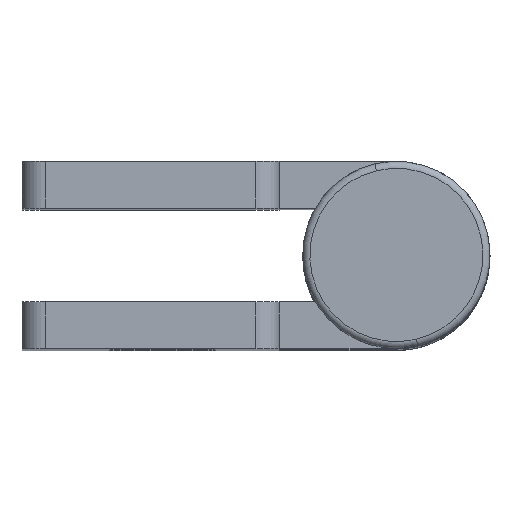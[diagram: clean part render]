
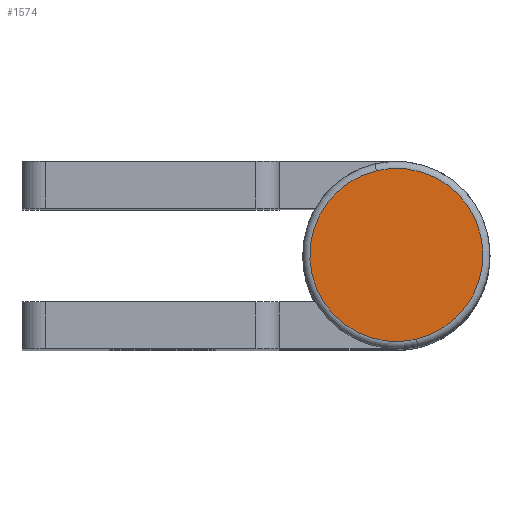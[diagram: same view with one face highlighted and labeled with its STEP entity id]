
A CAD part, top view. The second image highlights one B-rep face of the part: STEP entity #1574.
In plain terms, the highlighted planar face has unit normal (0, 0, 1) as drawn and (0, 0, -1) by its records, which use the part's own axes.
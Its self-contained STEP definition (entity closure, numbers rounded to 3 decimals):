
#32 = VERTEX_POINT ( 'NONE', #2256 ) ;
#90 = CARTESIAN_POINT ( 'NONE',  ( 0., 0., -1. ) ) ;
#177 = ORIENTED_EDGE ( 'NONE', *, *, #1757, .T. ) ;
#308 = DIRECTION ( 'NONE',  ( 1., 0., 0. ) ) ;
#429 = ORIENTED_EDGE ( 'NONE', *, *, #661, .T. ) ;
#540 = CIRCLE ( 'NONE', #1895, 3.7 ) ;
#661 = EDGE_CURVE ( 'NONE', #2833, #32, #1019, .T. ) ;
#689 = AXIS2_PLACEMENT_3D ( 'NONE', #90, #1703, #308 ) ;
#983 = DIRECTION ( 'NONE',  ( 0., 0., 1. ) ) ;
#1019 = CIRCLE ( 'NONE', #689, 3.7 ) ;
#1036 = CARTESIAN_POINT ( 'NONE',  ( 0., 0., -1. ) ) ;
#1066 = FACE_OUTER_BOUND ( 'NONE', #1491, .T. ) ;
#1199 = CARTESIAN_POINT ( 'NONE',  ( -3.7, 0., -1. ) ) ;
#1217 = PLANE ( 'NONE',  #1598 ) ;
#1285 = DIRECTION ( 'NONE',  ( 1., 0., 0. ) ) ;
#1491 = EDGE_LOOP ( 'NONE', ( #177, #429 ) ) ;
#1574 = ADVANCED_FACE ( 'NONE', ( #1066 ), #1217, .F. ) ;
#1598 = AXIS2_PLACEMENT_3D ( 'NONE', #1702, #983, #2623 ) ;
#1702 = CARTESIAN_POINT ( 'NONE',  ( 0., 0., -1. ) ) ;
#1703 = DIRECTION ( 'NONE',  ( 0., 0., -1. ) ) ;
#1757 = EDGE_CURVE ( 'NONE', #32, #2833, #540, .T. ) ;
#1895 = AXIS2_PLACEMENT_3D ( 'NONE', #1036, #2670, #1285 ) ;
#2256 = CARTESIAN_POINT ( 'NONE',  ( 3.7, 0., -1. ) ) ;
#2623 = DIRECTION ( 'NONE',  ( 1., 0., 0. ) ) ;
#2670 = DIRECTION ( 'NONE',  ( 0., 0., -1. ) ) ;
#2833 = VERTEX_POINT ( 'NONE', #1199 ) ;
